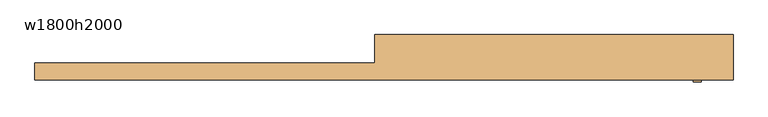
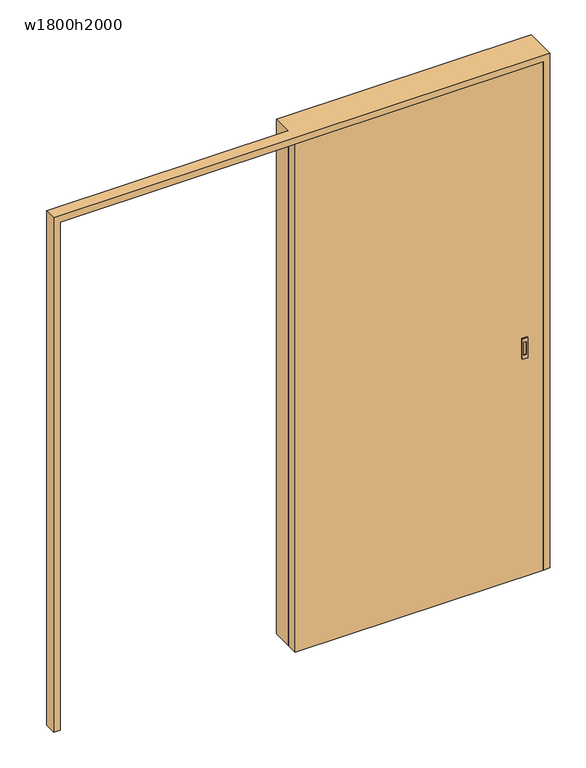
"""IFC4 building model written with IfcOpenShell, lengths in millimetres: door geometry, 片引戸 : w1800h2000."""

from ifc_helpers import new_model, si_unit, origin, origin_with_axes, place, context, project, spatial, polyline, outline, extrude, faceted_brep, source, transform, mapped, element, save


def w1800h2000_f6699b6c(model_context):
    return source(origin(), model_context, "Body", "SolidModel", [
        extrude(outline(polyline([(600.0, 30.0), (-325.0, 30.0), (-325.0, 70.0), (600.0, 70.0), (600.0, 30.0)])), origin_with_axes(), (0.0, 0.0, 1.0), 2000.0),
        faceted_brep([(540.0, 50.0, 940.0), (540.0, 50.0, 860.0), (520.0, 50.0, 860.0), (520.0, 50.0, 940.0), (525.0, 50.0, 925.0), (525.0, 50.0, 875.0), (535.0, 50.0, 875.0), (535.0, 50.0, 925.0), (540.0, 45.0, 940.0), (520.0, 45.0, 940.0), (520.0, 45.0, 860.0), (540.0, 45.0, 860.0), (535.0, 47.0, 925.0), (535.0, 47.0, 875.0), (525.0, 47.0, 875.0), (525.0, 47.0, 925.0)], [[[0, 1, 2, 3], [4, 5, 6, 7]], [[8, 9, 10, 11]], [[3, 9, 8, 0]], [[2, 10, 9, 3]], [[1, 11, 10, 2]], [[0, 8, 11, 1]], [[12, 13, 14, 15]], [[15, 4, 7, 12]], [[14, 5, 4, 15]], [[13, 6, 5, 14]], [[12, 7, 6, 13]]]),
        faceted_brep([(540.0, 25.0, 940.0), (520.0, 25.0, 940.0), (520.0, 25.0, 860.0), (540.0, 25.0, 860.0), (525.0, 25.0, 925.0), (535.0, 25.0, 925.0), (535.0, 25.0, 875.0), (525.0, 25.0, 875.0), (540.0, 30.0, 940.0), (540.0, 30.0, 860.0), (520.0, 30.0, 860.0), (520.0, 30.0, 940.0), (535.0, 28.0, 925.0), (525.0, 28.0, 925.0), (525.0, 28.0, 875.0), (535.0, 28.0, 875.0)], [[[0, 1, 2, 3], [4, 5, 6, 7]], [[8, 9, 10, 11]], [[1, 0, 8, 11]], [[2, 1, 11, 10]], [[3, 2, 10, 9]], [[0, 3, 9, 8]], [[12, 13, 14, 15]], [[13, 12, 5, 4]], [[14, 13, 4, 7]], [[15, 14, 7, 6]], [[12, 15, 6, 5]]]),
        faceted_brep([(-325.0, 150.0, 0.0), (-325.0, 75.0, 0.0), (-325.0, 75.0, 2000.0), (-325.0, 75.0, 2025.0), (-325.0, 150.0, 2025.0), (600.0, 30.0, 2000.0), (600.0, 30.0, 0.0), (625.0, 30.0, 0.0), (625.0, 30.0, 2025.0), (-1225.0, 30.0, 2025.0), (-1225.0, 30.0, 0.0), (-1200.0, 30.0, 0.0), (-1200.0, 30.0, 2000.0), (625.0, 150.0, 2025.0), (-1225.0, 75.0, 2025.0), (625.0, 150.0, 0.0), (600.0, 150.0, 0.0), (600.0, 150.0, 2000.0), (-300.0, 150.0, 2000.0), (-300.0, 150.0, 0.0), (-1200.0, 75.0, 2000.0), (-300.0, 75.0, 2000.0), (-300.0, 75.0, 0.0), (-1225.0, 75.0, 0.0), (-1200.0, 75.0, 0.0)], [[[0, 1, 2, 3, 4]], [[5, 6, 7, 8, 9, 10, 11, 12]], [[9, 8, 13, 4, 3, 14]], [[13, 15, 16, 17, 18, 19, 0, 4]], [[5, 12, 20, 2, 21, 18, 17]], [[7, 6, 16, 15]], [[8, 7, 15, 13]], [[6, 5, 17, 16]], [[22, 1, 0, 19]], [[22, 19, 18, 21]], [[1, 22, 21, 2]], [[10, 23, 24, 11]], [[23, 10, 9, 14]], [[24, 23, 14, 3, 2, 20]], [[11, 24, 20, 12]]]),
    ])


if __name__ == "__main__":
    model = new_model("IFC4")
    model_context = context("Model", 3, world=origin())
    ifc_project = project(units=[si_unit("LENGTHUNIT", "METRE", prefix="MILLI")], contexts=[model_context])
    site = spatial("IfcSite", under=ifc_project)
    building = spatial("IfcBuilding", under=site)
    placement = place(None, origin())
    w1800h2000_shape = w1800h2000_f6699b6c(model_context)
    element("IfcDoor", 1, ObjectType="片引戸 : w1800h2000", at=placement, inside=building, context=model_context, shape_type="MappedRepresentation", body=[
        mapped(w1800h2000_shape, transform((0.0, 0.0, 0.0), x_axis=(1.0, 0.0, 0.0), y_axis=(0.0, 1.0, 0.0), z_axis=(0.0, 0.0, 1.0))),
    ])
    save(model, "model.ifc")
